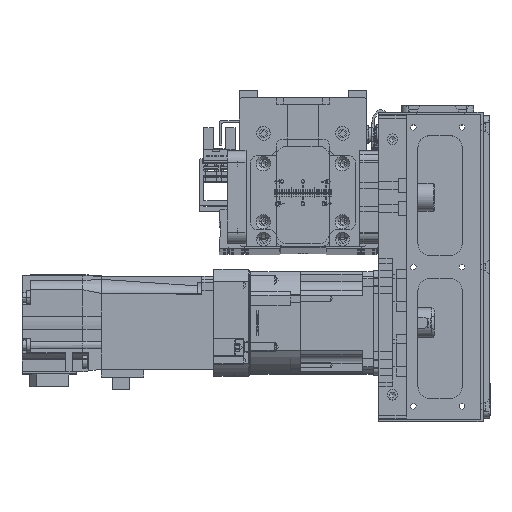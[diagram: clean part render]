
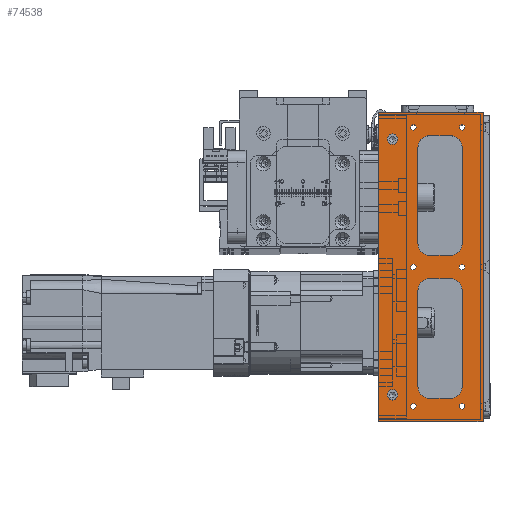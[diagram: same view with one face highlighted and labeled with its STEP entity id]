
A CAD part, top view. The second image highlights one B-rep face of the part: STEP entity #74538.
In plain terms, the highlighted planar face has unit normal (0, 0, 1) as drawn and (0, 1, 0) by its records, which use the part's own axes.
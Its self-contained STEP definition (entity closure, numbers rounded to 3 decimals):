
#1805=FACE_BOUND('',#11927,.T.);
#1806=FACE_BOUND('',#11928,.T.);
#1807=FACE_BOUND('',#11929,.T.);
#1808=FACE_BOUND('',#11930,.T.);
#1809=FACE_BOUND('',#11931,.T.);
#1810=FACE_BOUND('',#11932,.T.);
#1811=FACE_BOUND('',#11933,.T.);
#1812=FACE_BOUND('',#11934,.T.);
#1813=FACE_BOUND('',#11935,.T.);
#1814=FACE_BOUND('',#11936,.T.);
#3508=PLANE('',#81985);
#7371=FACE_OUTER_BOUND('',#11926,.T.);
#11926=EDGE_LOOP('',(#64362,#64363,#64364,#64365));
#11927=EDGE_LOOP('',(#64366));
#11928=EDGE_LOOP('',(#64367));
#11929=EDGE_LOOP('',(#64368));
#11930=EDGE_LOOP('',(#64369));
#11931=EDGE_LOOP('',(#64370));
#11932=EDGE_LOOP('',(#64371));
#11933=EDGE_LOOP('',(#64372));
#11934=EDGE_LOOP('',(#64373));
#11935=EDGE_LOOP('',(#64374,#64375,#64376,#64377,#64378,#64379,#64380,#64381));
#11936=EDGE_LOOP('',(#64382,#64383,#64384,#64385,#64386,#64387,#64388,#64389));
#15930=CIRCLE('',#81806,2.25);
#15934=CIRCLE('',#81812,2.25);
#15945=CIRCLE('',#81833,1.23);
#15949=CIRCLE('',#81839,1.23);
#15953=CIRCLE('',#81845,1.23);
#15957=CIRCLE('',#81851,1.23);
#15961=CIRCLE('',#81857,1.23);
#15965=CIRCLE('',#81863,1.23);
#15998=CIRCLE('',#81916,5.);
#16002=CIRCLE('',#81925,5.);
#16006=CIRCLE('',#81931,5.);
#16008=CIRCLE('',#81937,5.);
#16014=CIRCLE('',#81948,5.);
#16018=CIRCLE('',#81957,5.);
#16022=CIRCLE('',#81963,5.);
#16024=CIRCLE('',#81969,5.);
#20661=LINE('',#124045,#28279);
#20676=LINE('',#124075,#28294);
#20747=LINE('',#124365,#28365);
#20752=LINE('',#124376,#28370);
#20759=LINE('',#124401,#28377);
#20764=LINE('',#124412,#28382);
#20779=LINE('',#124461,#28397);
#20784=LINE('',#124472,#28402);
#20791=LINE('',#124497,#28409);
#20796=LINE('',#124508,#28414);
#20816=LINE('',#124558,#28434);
#20817=LINE('',#124560,#28435);
#28279=VECTOR('',#98246,10.);
#28294=VECTOR('',#98265,10.);
#28365=VECTOR('',#98580,10.);
#28370=VECTOR('',#98589,10.);
#28377=VECTOR('',#98616,10.);
#28382=VECTOR('',#98625,10.);
#28397=VECTOR('',#98676,10.);
#28402=VECTOR('',#98685,10.);
#28409=VECTOR('',#98712,10.);
#28414=VECTOR('',#98721,10.);
#28434=VECTOR('',#98777,10.);
#28435=VECTOR('',#98780,10.);
#36225=VERTEX_POINT('',#124042);
#36226=VERTEX_POINT('',#124044);
#36239=VERTEX_POINT('',#124073);
#36244=VERTEX_POINT('',#124093);
#36248=VERTEX_POINT('',#124105);
#36267=VERTEX_POINT('',#124163);
#36271=VERTEX_POINT('',#124175);
#36275=VERTEX_POINT('',#124187);
#36279=VERTEX_POINT('',#124199);
#36283=VERTEX_POINT('',#124211);
#36287=VERTEX_POINT('',#124223);
#36329=VERTEX_POINT('',#124346);
#36330=VERTEX_POINT('',#124348);
#36336=VERTEX_POINT('',#124363);
#36340=VERTEX_POINT('',#124375);
#36342=VERTEX_POINT('',#124381);
#36346=VERTEX_POINT('',#124393);
#36348=VERTEX_POINT('',#124399);
#36352=VERTEX_POINT('',#124411);
#36361=VERTEX_POINT('',#124442);
#36362=VERTEX_POINT('',#124444);
#36368=VERTEX_POINT('',#124459);
#36372=VERTEX_POINT('',#124471);
#36374=VERTEX_POINT('',#124477);
#36378=VERTEX_POINT('',#124489);
#36380=VERTEX_POINT('',#124495);
#36384=VERTEX_POINT('',#124507);
#36396=VERTEX_POINT('',#124556);
#45820=EDGE_CURVE('',#36225,#36226,#20661,.T.);
#45836=EDGE_CURVE('',#36239,#36225,#20676,.T.);
#45846=EDGE_CURVE('',#36244,#36244,#15930,.T.);
#45852=EDGE_CURVE('',#36248,#36248,#15934,.T.);
#45880=EDGE_CURVE('',#36267,#36267,#15945,.T.);
#45886=EDGE_CURVE('',#36271,#36271,#15949,.T.);
#45892=EDGE_CURVE('',#36275,#36275,#15953,.T.);
#45898=EDGE_CURVE('',#36279,#36279,#15957,.T.);
#45904=EDGE_CURVE('',#36283,#36283,#15961,.T.);
#45910=EDGE_CURVE('',#36287,#36287,#15965,.T.);
#45972=EDGE_CURVE('',#36330,#36329,#15998,.T.);
#45980=EDGE_CURVE('',#36329,#36336,#20747,.T.);
#45985=EDGE_CURVE('',#36340,#36330,#20752,.T.);
#45989=EDGE_CURVE('',#36336,#36342,#16002,.T.);
#45994=EDGE_CURVE('',#36346,#36340,#16006,.T.);
#45998=EDGE_CURVE('',#36342,#36348,#20759,.T.);
#46003=EDGE_CURVE('',#36352,#36346,#20764,.T.);
#46006=EDGE_CURVE('',#36348,#36352,#16008,.T.);
#46020=EDGE_CURVE('',#36362,#36361,#16014,.T.);
#46028=EDGE_CURVE('',#36361,#36368,#20779,.T.);
#46033=EDGE_CURVE('',#36372,#36362,#20784,.T.);
#46037=EDGE_CURVE('',#36368,#36374,#16018,.T.);
#46042=EDGE_CURVE('',#36378,#36372,#16022,.T.);
#46046=EDGE_CURVE('',#36374,#36380,#20791,.T.);
#46051=EDGE_CURVE('',#36384,#36378,#20796,.T.);
#46054=EDGE_CURVE('',#36380,#36384,#16024,.T.);
#46077=EDGE_CURVE('',#36396,#36226,#20816,.T.);
#46078=EDGE_CURVE('',#36239,#36396,#20817,.T.);
#64362=ORIENTED_EDGE('',*,*,#46078,.T.);
#64363=ORIENTED_EDGE('',*,*,#46077,.T.);
#64364=ORIENTED_EDGE('',*,*,#45820,.F.);
#64365=ORIENTED_EDGE('',*,*,#45836,.F.);
#64366=ORIENTED_EDGE('',*,*,#45846,.T.);
#64367=ORIENTED_EDGE('',*,*,#45852,.T.);
#64368=ORIENTED_EDGE('',*,*,#45880,.T.);
#64369=ORIENTED_EDGE('',*,*,#45886,.T.);
#64370=ORIENTED_EDGE('',*,*,#45892,.T.);
#64371=ORIENTED_EDGE('',*,*,#45898,.T.);
#64372=ORIENTED_EDGE('',*,*,#45904,.T.);
#64373=ORIENTED_EDGE('',*,*,#45910,.T.);
#64374=ORIENTED_EDGE('',*,*,#46006,.T.);
#64375=ORIENTED_EDGE('',*,*,#46003,.T.);
#64376=ORIENTED_EDGE('',*,*,#45994,.T.);
#64377=ORIENTED_EDGE('',*,*,#45985,.T.);
#64378=ORIENTED_EDGE('',*,*,#45972,.T.);
#64379=ORIENTED_EDGE('',*,*,#45980,.T.);
#64380=ORIENTED_EDGE('',*,*,#45989,.T.);
#64381=ORIENTED_EDGE('',*,*,#45998,.T.);
#64382=ORIENTED_EDGE('',*,*,#46054,.T.);
#64383=ORIENTED_EDGE('',*,*,#46051,.T.);
#64384=ORIENTED_EDGE('',*,*,#46042,.T.);
#64385=ORIENTED_EDGE('',*,*,#46033,.T.);
#64386=ORIENTED_EDGE('',*,*,#46020,.T.);
#64387=ORIENTED_EDGE('',*,*,#46028,.T.);
#64388=ORIENTED_EDGE('',*,*,#46037,.T.);
#64389=ORIENTED_EDGE('',*,*,#46046,.T.);
#74538=ADVANCED_FACE('',(#7371,#1805,#1806,#1807,#1808,#1809,#1810,#1811,
#1812,#1813,#1814),#3508,.T.);
#81806=AXIS2_PLACEMENT_3D('',#124095,#98287,#98288);
#81812=AXIS2_PLACEMENT_3D('',#124107,#98301,#98302);
#81833=AXIS2_PLACEMENT_3D('',#124164,#98360,#98361);
#81839=AXIS2_PLACEMENT_3D('',#124176,#98374,#98375);
#81845=AXIS2_PLACEMENT_3D('',#124188,#98388,#98389);
#81851=AXIS2_PLACEMENT_3D('',#124200,#98402,#98403);
#81857=AXIS2_PLACEMENT_3D('',#124212,#98416,#98417);
#81863=AXIS2_PLACEMENT_3D('',#124224,#98430,#98431);
#81916=AXIS2_PLACEMENT_3D('',#124349,#98565,#98566);
#81925=AXIS2_PLACEMENT_3D('',#124383,#98596,#98597);
#81931=AXIS2_PLACEMENT_3D('',#124394,#98609,#98610);
#81937=AXIS2_PLACEMENT_3D('',#124416,#98631,#98632);
#81948=AXIS2_PLACEMENT_3D('',#124445,#98661,#98662);
#81957=AXIS2_PLACEMENT_3D('',#124479,#98692,#98693);
#81963=AXIS2_PLACEMENT_3D('',#124490,#98705,#98706);
#81969=AXIS2_PLACEMENT_3D('',#124512,#98727,#98728);
#81985=AXIS2_PLACEMENT_3D('',#124559,#98778,#98779);
#98246=DIRECTION('',(1.,0.,0.));
#98265=DIRECTION('',(0.,0.,-1.));
#98287=DIRECTION('center_axis',(0.,-1.,0.));
#98288=DIRECTION('ref_axis',(1.,0.,0.));
#98301=DIRECTION('center_axis',(0.,-1.,0.));
#98302=DIRECTION('ref_axis',(1.,0.,0.));
#98360=DIRECTION('center_axis',(0.,-1.,0.));
#98361=DIRECTION('ref_axis',(1.,0.,0.));
#98374=DIRECTION('center_axis',(0.,-1.,0.));
#98375=DIRECTION('ref_axis',(1.,0.,0.));
#98388=DIRECTION('center_axis',(0.,-1.,0.));
#98389=DIRECTION('ref_axis',(1.,0.,0.));
#98402=DIRECTION('center_axis',(0.,-1.,0.));
#98403=DIRECTION('ref_axis',(1.,0.,0.));
#98416=DIRECTION('center_axis',(0.,-1.,0.));
#98417=DIRECTION('ref_axis',(1.,0.,0.));
#98430=DIRECTION('center_axis',(0.,-1.,0.));
#98431=DIRECTION('ref_axis',(1.,0.,0.));
#98565=DIRECTION('center_axis',(0.,-1.,0.));
#98566=DIRECTION('ref_axis',(0.,0.,-1.));
#98580=DIRECTION('',(-1.,0.,0.));
#98589=DIRECTION('',(0.,0.,1.));
#98596=DIRECTION('center_axis',(0.,-1.,0.));
#98597=DIRECTION('ref_axis',(1.,0.,0.));
#98609=DIRECTION('center_axis',(0.,-1.,0.));
#98610=DIRECTION('ref_axis',(-1.,0.,0.));
#98616=DIRECTION('',(0.,0.,-1.));
#98625=DIRECTION('',(1.,0.,0.));
#98631=DIRECTION('center_axis',(0.,-1.,0.));
#98632=DIRECTION('ref_axis',(0.,0.,1.));
#98661=DIRECTION('center_axis',(0.,-1.,0.));
#98662=DIRECTION('ref_axis',(1.,0.,0.));
#98676=DIRECTION('',(0.,0.,-1.));
#98685=DIRECTION('',(-1.,0.,0.));
#98692=DIRECTION('center_axis',(0.,-1.,0.));
#98693=DIRECTION('ref_axis',(0.,0.,1.));
#98705=DIRECTION('center_axis',(0.,-1.,0.));
#98706=DIRECTION('ref_axis',(0.,0.,-1.));
#98712=DIRECTION('',(1.,0.,0.));
#98721=DIRECTION('',(0.,0.,1.));
#98727=DIRECTION('center_axis',(0.,-1.,0.));
#98728=DIRECTION('ref_axis',(-1.,0.,0.));
#98777=DIRECTION('',(0.,0.,-1.));
#98778=DIRECTION('center_axis',(0.,1.,0.));
#98779=DIRECTION('ref_axis',(1.,0.,0.));
#98780=DIRECTION('',(1.,0.,0.));
#124042=CARTESIAN_POINT('',(-66.5,28.,-45.));
#124044=CARTESIAN_POINT('',(66.5,28.,-45.));
#124045=CARTESIAN_POINT('',(-66.5,28.,-45.));
#124073=CARTESIAN_POINT('',(-66.5,28.,0.));
#124075=CARTESIAN_POINT('',(-66.5,28.,0.));
#124093=CARTESIAN_POINT('',(52.75,28.,-39.));
#124095=CARTESIAN_POINT('Origin',(55.,28.,-39.));
#124105=CARTESIAN_POINT('',(-57.25,28.,-39.));
#124107=CARTESIAN_POINT('Origin',(-55.,28.,-39.));
#124163=CARTESIAN_POINT('',(58.771,28.,-30.));
#124164=CARTESIAN_POINT('Origin',(60.,28.,-30.));
#124175=CARTESIAN_POINT('',(-61.23,28.,-30.));
#124176=CARTESIAN_POINT('Origin',(-60.,28.,-30.));
#124187=CARTESIAN_POINT('',(-1.23,28.,-30.));
#124188=CARTESIAN_POINT('Origin',(0.,28.,-30.));
#124199=CARTESIAN_POINT('',(-1.23,28.,-9.));
#124200=CARTESIAN_POINT('Origin',(0.,28.,-9.));
#124211=CARTESIAN_POINT('',(-61.23,28.,-9.));
#124212=CARTESIAN_POINT('Origin',(-60.,28.,-9.));
#124223=CARTESIAN_POINT('',(58.771,28.,-9.));
#124224=CARTESIAN_POINT('Origin',(60.,28.,-9.));
#124346=CARTESIAN_POINT('',(-10.,28.,-9.));
#124348=CARTESIAN_POINT('',(-5.,28.,-14.));
#124349=CARTESIAN_POINT('Origin',(-10.,28.,-14.));
#124363=CARTESIAN_POINT('',(-51.5,28.,-9.));
#124365=CARTESIAN_POINT('',(-38.25,28.,-9.));
#124375=CARTESIAN_POINT('',(-5.,28.,-23.));
#124376=CARTESIAN_POINT('',(-5.,28.,-11.5));
#124381=CARTESIAN_POINT('',(-56.5,28.,-14.));
#124383=CARTESIAN_POINT('Origin',(-51.5,28.,-14.));
#124393=CARTESIAN_POINT('',(-10.,28.,-28.));
#124394=CARTESIAN_POINT('Origin',(-10.,28.,-23.));
#124399=CARTESIAN_POINT('',(-56.5,28.,-23.));
#124401=CARTESIAN_POINT('',(-56.5,28.,-7.));
#124411=CARTESIAN_POINT('',(-51.5,28.,-28.));
#124412=CARTESIAN_POINT('',(-59.,28.,-28.));
#124416=CARTESIAN_POINT('Origin',(-51.5,28.,-23.));
#124442=CARTESIAN_POINT('',(5.,28.,-14.));
#124444=CARTESIAN_POINT('',(10.,28.,-9.));
#124445=CARTESIAN_POINT('Origin',(10.,28.,-14.));
#124459=CARTESIAN_POINT('',(5.,28.,-23.));
#124461=CARTESIAN_POINT('',(5.,28.,-7.));
#124471=CARTESIAN_POINT('',(51.5,28.,-9.));
#124472=CARTESIAN_POINT('',(-7.5,28.,-9.));
#124477=CARTESIAN_POINT('',(10.,28.,-28.));
#124479=CARTESIAN_POINT('Origin',(10.,28.,-23.));
#124489=CARTESIAN_POINT('',(56.5,28.,-14.));
#124490=CARTESIAN_POINT('Origin',(51.5,28.,-14.));
#124495=CARTESIAN_POINT('',(51.5,28.,-28.));
#124497=CARTESIAN_POINT('',(-28.25,28.,-28.));
#124507=CARTESIAN_POINT('',(56.5,28.,-23.));
#124508=CARTESIAN_POINT('',(56.5,28.,-11.5));
#124512=CARTESIAN_POINT('Origin',(51.5,28.,-23.));
#124556=CARTESIAN_POINT('',(66.5,28.,0.));
#124558=CARTESIAN_POINT('',(66.5,28.,0.));
#124559=CARTESIAN_POINT('Origin',(-66.5,28.,0.));
#124560=CARTESIAN_POINT('',(-66.5,28.,0.));
